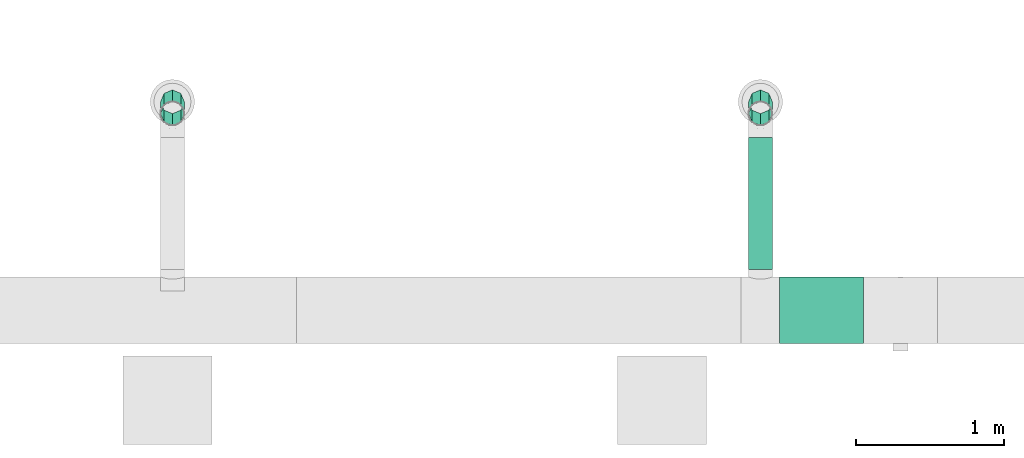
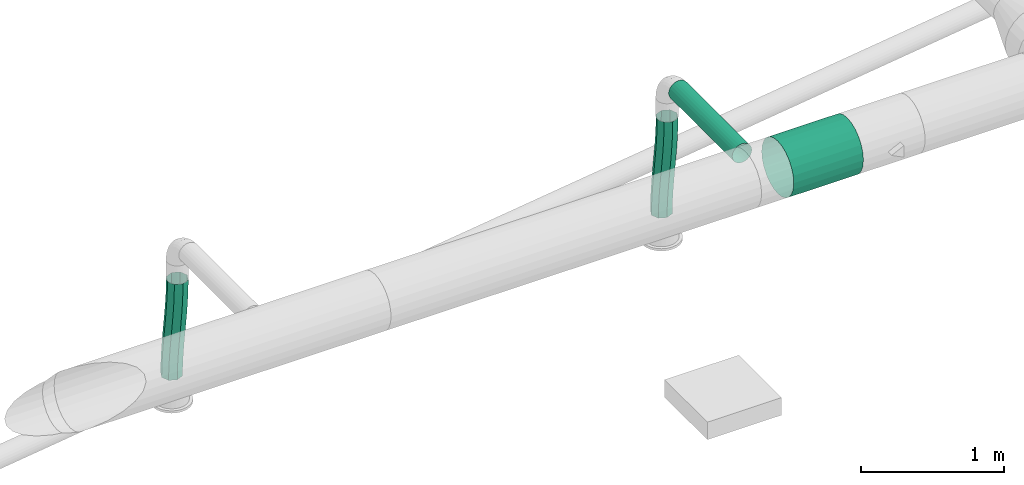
# One storey, part 312 of 374: 4 flow segments.
"""IFC2X3 building model written with IfcOpenShell, lengths in metres."""

from ifc_helpers import new_model, si_unit, direction, origin, place, context, subcontext, project, spatial, open_shell, surface_model, source, transform, mapped, element, save


model = new_model("IFC2X3")

# Units and contexts
model_context = context("Model", 3, precision=1e-05, world=origin(), true_north=direction((-0.4480736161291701, 0.8939966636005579)))
body_context = subcontext(model_context, "Body", "Model", "MODEL_VIEW")
ifc_project = project(units=[si_unit("LENGTHUNIT", "METRE"), si_unit("AREAUNIT", "SQUARE_METRE"), si_unit("VOLUMEUNIT", "CUBIC_METRE"), si_unit("PLANEANGLEUNIT", "RADIAN"), si_unit("THERMODYNAMICTEMPERATUREUNIT", "KELVIN"), si_unit("MASSUNIT", "GRAM", prefix="KILO"), si_unit("TIMEUNIT", "SECOND")], contexts=[model_context])

# Site, building, storey
site_placement = place(None, origin())
site = spatial("IfcSite", under=ifc_project, at=site_placement, Name="Site 1", CompositionType="ELEMENT")
building_placement = place(site_placement, origin())
building = spatial("IfcBuilding", under=site, at=building_placement, Name="Undefined", CompositionType="ELEMENT")
storey_placement = place(building_placement, origin())
storey = spatial("IfcBuildingStorey", under=building, at=storey_placement, Name="Rez de chauss\x8ee", CompositionType="ELEMENT", Elevation=0.0)

# Flow segments
shared_shape_1 = source(origin(), body_context, "Body", "SurfaceModel", [
    surface_model("IfcFaceBasedSurfaceModel", [(0.0, 0.05873678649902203, -2.77555756e-16), (0.0, 0.0, 0.0), (0.5642835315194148, -3.552713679e-15, 8.8817842e-16), (0.5642835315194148, 0.05873678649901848, 0.0), (0.0, -0.05673537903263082, -0.015202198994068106), (0.5642835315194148, -0.05673537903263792, -0.015202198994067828), (0.0, -0.10760292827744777, -0.044570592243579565), (0.5642835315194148, -0.10760292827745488, -0.04457059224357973), (0.0, -0.14913610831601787, -0.08610377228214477), (0.5642835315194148, -0.14913610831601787, -0.08610377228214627), (0.0, -0.1785045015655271, -0.13697132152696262), (0.5642835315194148, -0.17850450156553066, -0.13697132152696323), (0.0, -0.19370670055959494, -0.1937067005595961), (0.5642835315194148, -0.1937067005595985, -0.19370670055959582), (0.0, -0.19370670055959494, -0.252443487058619), (0.5642835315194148, -0.1937067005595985, -0.2524434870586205), (0.0, -0.1785045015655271, -0.30917886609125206), (0.5642835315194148, -0.1785045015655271, -0.309178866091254), (0.0, -0.14913610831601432, -0.36004641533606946), (0.5642835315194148, -0.14913610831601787, -0.36004641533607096), (0.0, -0.10760292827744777, -0.40157959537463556), (0.5642835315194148, -0.10760292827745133, -0.4015795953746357), (0.0, -0.05673537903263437, -0.43094798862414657), (0.5642835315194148, -0.05673537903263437, -0.43094798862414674), (0.0, 0.0, -0.4461501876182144), (0.5642835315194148, 0.0, -0.44615018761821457), (0.0, 0.058736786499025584, -0.4461501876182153), (0.5642835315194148, 0.05873678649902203, -0.44615018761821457), (0.0, 0.1154721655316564, -0.430947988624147), (0.5642835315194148, 0.1154721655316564, -0.43094798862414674), (0.0, 0.16633971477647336, -0.4015795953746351), (0.5642835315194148, 0.16633971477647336, -0.40157959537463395), (0.0, 0.20787289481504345, -0.3600464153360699), (0.5642835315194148, 0.20787289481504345, -0.3600464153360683), (0.0, 0.23724128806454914, -0.3091788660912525), (0.5642835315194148, 0.23724128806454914, -0.30917886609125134), (0.0, 0.25244348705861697, -0.25244348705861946), (0.5642835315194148, 0.25244348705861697, -0.2524434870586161), (0.0, 0.25244348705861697, -0.1937067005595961), (0.5642835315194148, 0.25244348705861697, -0.19370670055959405), (0.0, 0.2372412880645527, -0.13697132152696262), (0.5642835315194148, 0.2372412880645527, -0.13697132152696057), (0.0, 0.2078728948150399, -0.08610377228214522), (0.5642835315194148, 0.20787289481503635, -0.08610377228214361), (0.0, 0.16633971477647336, -0.044570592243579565), (0.5642835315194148, 0.1663397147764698, -0.044570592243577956), (0.0, 0.11547216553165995, -0.01520219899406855), (0.5642835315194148, 0.11547216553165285, -0.01520219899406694)], [open_shell([[[0, 1, 2, 3]], [[1, 4, 5, 2]], [[4, 6, 7, 5]], [[6, 8, 9, 7]], [[8, 10, 11, 9]], [[10, 12, 13, 11]], [[12, 14, 15, 13]], [[14, 16, 17, 15]], [[16, 18, 19, 17]], [[18, 20, 21, 19]], [[20, 22, 23, 21]], [[22, 24, 25, 23]], [[24, 26, 27, 25]], [[26, 28, 29, 27]], [[28, 30, 31, 29]], [[30, 32, 33, 31]], [[32, 34, 35, 33]], [[34, 36, 37, 35]], [[36, 38, 39, 37]], [[38, 40, 41, 39]], [[40, 42, 43, 41]], [[42, 44, 45, 43]], [[44, 46, 47, 45]], [[46, 0, 3, 47]]])]),
])
flow_segment_1_placement = place(storey_placement, origin())
element("IfcFlowSegment", 1, at=flow_segment_1_placement, inside=storey, Name="Tube", ObjectType="Tube", context=body_context, shape_type="MappedRepresentation", body=[
    mapped(shared_shape_1, transform((50.1249950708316, 20.585122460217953, 4.017333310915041), x_axis=(-1.0, 0.0, 0.0), y_axis=(7.266545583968e-12, -0.9914448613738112, 0.13052619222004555), z_axis=(0.0, 0.13052619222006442, 0.9914448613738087))),
])
shared_shape_2 = source(origin(), body_context, "Body", "SurfaceModel", [
    surface_model("IfcFaceBasedSurfaceModel", [(0.09425708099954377, 0.0, -7.105427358e-15), (0.05356602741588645, 0.045752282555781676, -7.105427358e-15), (0.0, 0.0, 0.0), (0.038940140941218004, -0.04725144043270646, -1.1507118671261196e-06), (-0.05541274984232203, -0.044041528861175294, 0.001035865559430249), (-0.01799366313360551, -0.09250640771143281, 0.0010617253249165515), (-0.11243305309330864, -0.08679099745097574, 0.002911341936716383), (-0.07622095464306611, -0.13616419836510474, 0.0029758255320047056), (-0.17075715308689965, -0.12862218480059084, 0.0054269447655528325), (-0.13541835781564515, -0.1786241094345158, 0.005528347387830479), (-0.23007333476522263, -0.16991458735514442, 0.008379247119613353), (-0.19526249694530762, -0.22028543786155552, 0.008506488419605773), (-0.2900642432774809, -0.21105506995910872, 0.011560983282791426), (-0.2554299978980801, -0.2615474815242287, 0.011697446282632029), (-0.3504083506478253, -0.25243870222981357, 0.014761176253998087), (-0.31559749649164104, -0.3028095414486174, 0.014888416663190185), (-0.4107804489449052, -0.2944689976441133, 0.017765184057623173), (-0.37544163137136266, -0.344470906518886, 0.01786658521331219), (-0.47085115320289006, -0.33755767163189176, 0.020354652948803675), (-0.4346390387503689, -0.3869308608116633, 0.020419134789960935), (-0.5302854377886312, -0.3821238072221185, 0.022307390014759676), (-0.49286635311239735, -0.4305886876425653, 0.0223332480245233), (-0.5887403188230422, -0.42859220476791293, 0.02339725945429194), (-0.5498002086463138, -0.47584367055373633, 0.02339610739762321), (-0.6458082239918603, -0.47734274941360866, 0.023394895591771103), (-0.6051172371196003, -0.5230950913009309, 0.023394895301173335), (0.025061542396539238, 0.07834277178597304, -0.043294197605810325), (-0.02777922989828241, 0.03321146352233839, -0.04329372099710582), (-0.08256193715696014, -0.010327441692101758, -0.04226904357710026), (-0.13908229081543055, -0.05270067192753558, -0.04040956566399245), (-0.19704466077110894, -0.09427143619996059, -0.03790925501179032), (-0.25614216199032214, -0.13541102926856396, -0.034967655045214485), (-0.316059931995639, -0.17650116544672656, -0.03178973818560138), (-0.37647719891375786, -0.21793515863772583, -0.02858572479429), (-0.4370679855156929, -0.2601182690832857, -0.025571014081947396), (-0.4975004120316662, -0.3034673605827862, -0.022966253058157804), (-0.5574346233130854, -0.34840971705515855, -0.020997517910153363), (-0.6165195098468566, -0.39538070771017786, -0.019896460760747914), (-0.6743126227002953, -0.44475218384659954, -0.019899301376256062), (0.025441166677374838, 0.0786804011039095, -0.1045214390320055), (-0.028124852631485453, 0.03292812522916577, -0.10452143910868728), (-0.08353759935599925, -0.011113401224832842, -0.10348557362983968), (-0.14055790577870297, -0.05386287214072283, -0.1016100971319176), (-0.19888201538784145, -0.09569406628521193, -0.09909449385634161), (-0.25819821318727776, -0.13698647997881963, -0.09614219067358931), (-0.31818914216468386, -0.1781269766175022, -0.0929604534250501), (-0.3785332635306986, -0.21951061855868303, -0.08976025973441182), (-0.43890535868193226, -0.2615409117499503, -0.08675625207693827), (-0.4989760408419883, -0.30462956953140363, -0.08416678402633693), (-0.5584102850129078, -0.34919567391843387, -0.08221404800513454), (-0.616865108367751, -0.3956640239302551, -0.08112417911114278), (-0.6739329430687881, -0.4444145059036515, -0.08112654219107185), (0.05448252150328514, 0.04656739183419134, -0.14781563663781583), (-0.0008344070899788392, -0.0006840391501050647, -0.14781678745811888), (-0.05776820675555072, -0.045939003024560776, -0.14675391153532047), (-0.11599550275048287, -0.08959679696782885, -0.14483981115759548), (-0.1751929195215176, -0.13205671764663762, -0.14228728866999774), (-0.2350370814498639, -0.17371806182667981, -0.13930914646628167), (-0.2952046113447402, -0.21498012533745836, -0.13611818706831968), (-0.35537212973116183, -0.2562421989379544, -0.13292721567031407), (-0.41521626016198, -0.29790356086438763, -0.12994904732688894), (-0.4744136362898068, -0.3403634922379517, -0.1273964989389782), (-0.5326408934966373, -0.3840212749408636, -0.1254823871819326), (-0.5895746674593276, -0.4292761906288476, -0.12441952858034), (-0.6448915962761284, -0.4765275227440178, -0.12442073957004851), (0.09517357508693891, 0.0008151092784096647, -0.14781563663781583), (0.038105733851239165, -0.04793547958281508, -0.147817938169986), (-0.02034912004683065, -0.0944038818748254, -0.14672805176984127), (-0.07978340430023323, -0.1389699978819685, -0.14477532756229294), (-0.13985412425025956, -0.18205864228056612, -0.1421858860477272), (-0.20022624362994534, -0.22408891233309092, -0.13918190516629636), (-0.26057036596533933, -0.2654725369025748, -0.1359817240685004), (-0.32056127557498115, -0.3066130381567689, -0.13279997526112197), (-0.3798774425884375, -0.3479054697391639, -0.12984764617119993), (-0.43820152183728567, -0.38973668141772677, -0.12733201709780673), (-0.49522180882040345, -0.43248615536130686, -0.12545652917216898), (-0.5506345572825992, -0.47652765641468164, -0.12442068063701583), (-0.6042006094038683, -0.5222798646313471, -0.12442073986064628), (0.12367806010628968, -0.03177537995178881, -0.1045214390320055), (0.06588496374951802, -0.08114694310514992, -0.10452421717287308), (0.006800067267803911, -0.12811796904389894, -0.10342314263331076), (-0.053134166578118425, -0.173060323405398, -0.10145441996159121), (-0.11356661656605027, -0.21640939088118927, -0.09884968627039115), (-0.1741574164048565, -0.2585924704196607, -0.09583500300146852), (-0.2345746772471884, -0.30002644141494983, -0.09263100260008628), (-0.29449242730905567, -0.34111658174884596, -0.08945307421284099), (-0.3535899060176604, -0.38225619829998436, -0.08651144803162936), (-0.4115522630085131, -0.42382699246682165, -0.08401111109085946), (-0.46807262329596, -0.4662002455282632, -0.08215162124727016), (-0.5228553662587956, -0.5097391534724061, -0.08112696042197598), (-0.575696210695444, -0.5548704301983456, -0.08112654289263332), (0.12329843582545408, -0.03211300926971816, -0.043294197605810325), (0.06623058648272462, -0.0808636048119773, -0.04329649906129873), (0.00777572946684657, -0.12733200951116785, -0.04220661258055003), (-0.051658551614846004, -0.17189812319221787, -0.04025388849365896), (-0.11172926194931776, -0.21498676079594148, -0.03766444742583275), (-0.17210136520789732, -0.2570170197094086, -0.034660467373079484), (-0.2324454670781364, -0.29840063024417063, -0.03146028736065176), (-0.2924363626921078, -0.33954112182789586, -0.02827853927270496), (-0.35175253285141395, -0.38083355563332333, -0.02532621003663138), (-0.41007663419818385, -0.42266478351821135, -0.02281058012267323), (-0.46709696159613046, -0.46541428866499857, -0.020935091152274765), (-0.5225097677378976, -0.5094558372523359, -0.019899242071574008), (-0.5760758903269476, -0.5552081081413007, -0.01989930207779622)], [open_shell([[[0, 1, 2]], [[2, 3, 0]], [[3, 2, 4]], [[4, 5, 3]], [[5, 4, 6]], [[6, 7, 5]], [[7, 6, 8]], [[8, 9, 7]], [[9, 8, 10]], [[10, 11, 9]], [[11, 10, 12]], [[12, 13, 11]], [[13, 12, 14]], [[14, 15, 13]], [[15, 14, 16]], [[16, 17, 15]], [[17, 16, 18]], [[18, 19, 17]], [[19, 18, 20]], [[20, 21, 19]], [[21, 20, 22]], [[22, 23, 21]], [[23, 22, 24]], [[24, 25, 23]], [[1, 26, 27]], [[27, 2, 1]], [[2, 27, 28]], [[28, 4, 2]], [[4, 28, 29]], [[29, 6, 4]], [[6, 29, 30]], [[30, 8, 6]], [[8, 30, 31]], [[31, 10, 8]], [[10, 31, 32]], [[32, 12, 10]], [[12, 32, 33]], [[33, 14, 12]], [[14, 33, 34]], [[34, 16, 14]], [[16, 34, 35]], [[35, 18, 16]], [[18, 35, 36]], [[36, 20, 18]], [[20, 36, 37]], [[37, 22, 20]], [[22, 37, 38]], [[38, 24, 22]], [[26, 39, 40]], [[40, 27, 26]], [[27, 40, 41]], [[41, 28, 27]], [[28, 41, 42]], [[42, 29, 28]], [[29, 42, 43]], [[43, 30, 29]], [[30, 43, 44]], [[44, 31, 30]], [[31, 44, 45]], [[45, 32, 31]], [[32, 45, 46]], [[46, 33, 32]], [[33, 46, 47]], [[47, 34, 33]], [[34, 47, 48]], [[48, 35, 34]], [[35, 48, 49]], [[49, 36, 35]], [[36, 49, 50]], [[50, 37, 36]], [[37, 50, 51]], [[51, 38, 37]], [[39, 52, 53]], [[53, 40, 39]], [[40, 53, 54]], [[54, 41, 40]], [[41, 54, 55]], [[55, 42, 41]], [[42, 55, 56]], [[56, 43, 42]], [[43, 56, 57]], [[57, 44, 43]], [[44, 57, 58]], [[58, 45, 44]], [[45, 58, 59]], [[59, 46, 45]], [[46, 59, 60]], [[60, 47, 46]], [[47, 60, 61]], [[61, 48, 47]], [[48, 61, 62]], [[62, 49, 48]], [[49, 62, 63]], [[63, 50, 49]], [[50, 63, 64]], [[64, 51, 50]], [[52, 65, 66]], [[66, 53, 52]], [[53, 66, 67]], [[67, 54, 53]], [[54, 67, 68]], [[68, 55, 54]], [[55, 68, 69]], [[69, 56, 55]], [[56, 69, 70]], [[70, 57, 56]], [[57, 70, 71]], [[71, 58, 57]], [[58, 71, 72]], [[72, 59, 58]], [[59, 72, 73]], [[73, 60, 59]], [[60, 73, 74]], [[74, 61, 60]], [[61, 74, 75]], [[75, 62, 61]], [[62, 75, 76]], [[76, 63, 62]], [[63, 76, 77]], [[77, 64, 63]], [[65, 78, 79]], [[79, 66, 65]], [[66, 79, 80]], [[80, 67, 66]], [[67, 80, 81]], [[81, 68, 67]], [[68, 81, 82]], [[82, 69, 68]], [[69, 82, 83]], [[83, 70, 69]], [[70, 83, 84]], [[84, 71, 70]], [[71, 84, 85]], [[85, 72, 71]], [[72, 85, 86]], [[86, 73, 72]], [[73, 86, 87]], [[87, 74, 73]], [[74, 87, 88]], [[88, 75, 74]], [[75, 88, 89]], [[89, 76, 75]], [[76, 89, 90]], [[90, 77, 76]], [[78, 91, 92]], [[92, 79, 78]], [[79, 92, 93]], [[93, 80, 79]], [[80, 93, 94]], [[94, 81, 80]], [[81, 94, 95]], [[95, 82, 81]], [[82, 95, 96]], [[96, 83, 82]], [[83, 96, 97]], [[97, 84, 83]], [[84, 97, 98]], [[98, 85, 84]], [[85, 98, 99]], [[99, 86, 85]], [[86, 99, 100]], [[100, 87, 86]], [[87, 100, 101]], [[101, 88, 87]], [[88, 101, 102]], [[102, 89, 88]], [[89, 102, 103]], [[103, 90, 89]], [[91, 0, 3]], [[3, 92, 91]], [[92, 3, 5]], [[5, 93, 92]], [[93, 5, 7]], [[7, 94, 93]], [[94, 7, 9]], [[9, 95, 94]], [[95, 9, 11]], [[11, 96, 95]], [[96, 11, 13]], [[13, 97, 96]], [[97, 13, 15]], [[15, 98, 97]], [[98, 15, 17]], [[17, 99, 98]], [[99, 17, 19]], [[19, 100, 99]], [[100, 19, 21]], [[21, 101, 100]], [[101, 21, 23]], [[23, 102, 101]], [[102, 23, 25]], [[25, 103, 102]]])]),
])
flow_segment_2_placement = place(storey_placement, origin())
element("IfcFlowSegment", 2, at=flow_segment_2_placement, inside=storey, Name="Tube flexible", ObjectType="Tube flexible", context=body_context, shape_type="MappedRepresentation", body=[
    mapped(shared_shape_2, transform((49.374143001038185, 21.91141704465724, 3.4095708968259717), x_axis=(-0.24859099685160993, -0.6163532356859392, 0.7472022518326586), y_axis=(0.2910461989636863, 0.6882384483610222, 0.6645449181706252), z_axis=(-0.9238477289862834, 0.38267025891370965, 0.008297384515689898))),
])
shared_shape_3 = source(origin(), body_context, "Body", "SurfaceModel", [
    surface_model("IfcFaceBasedSurfaceModel", [(0.0942570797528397, 0.0, 0.0), (0.053566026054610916, 0.04575228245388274, 0.0), (0.0, 0.0, 0.0), (0.038940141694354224, -0.04725143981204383, -1.1507479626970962e-06), (-0.05541274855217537, -0.04404152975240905, 0.0010358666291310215), (-0.01799366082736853, -0.09250640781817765, 0.0010617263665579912), (-0.11243305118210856, -0.08679099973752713, 0.0029113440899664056), (-0.07622095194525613, -0.1361642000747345, 0.002975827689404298), (-0.17075715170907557, -0.1286221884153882, 0.00542694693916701), (-0.1354183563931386, -0.17862411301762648, 0.005528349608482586), (-0.2300733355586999, -0.16991459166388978, 0.008379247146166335), (-0.19526249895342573, -0.22028544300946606, 0.008506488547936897), (-0.29006424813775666, -0.21105507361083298, 0.01156097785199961), (-0.25543000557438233, -0.26154748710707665, 0.011697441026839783), (-0.35040836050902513, -0.25243870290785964, 0.014761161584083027), (-0.31559751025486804, -0.30280954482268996, 0.014888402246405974), (-0.41078046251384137, -0.2944689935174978, 0.017765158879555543), (-0.375441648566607, -0.34447090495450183, 0.017866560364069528), (-0.4708511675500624, -0.3375576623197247, 0.02035461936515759), (-0.43463905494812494, -0.38693085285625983, 0.020419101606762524), (-0.5302854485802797, -0.3821237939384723, 0.022307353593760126), (-0.4928663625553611, -0.43058867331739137, 0.02233321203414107), (-0.5887403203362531, -0.428592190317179, 0.0233972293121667), (-0.5498002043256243, -0.47584365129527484, 0.02339607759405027), (-0.6458082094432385, -0.47734273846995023, 0.02339488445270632), (-0.6051172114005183, -0.5230950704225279, 0.02339488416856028), (0.02506154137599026, 0.07834277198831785, -0.04329419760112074), (-0.02777923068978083, 0.03321146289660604, -0.04329372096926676), (-0.0825619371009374, -0.010327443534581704, -0.04226904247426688), (-0.13908228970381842, -0.052700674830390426, -0.04040956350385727), (-0.197044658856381, -0.0942714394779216, -0.03790925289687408), (-0.256142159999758, -0.13541103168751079, -0.0349676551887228), (-0.31605993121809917, -0.17650116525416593, -0.03178974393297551), (-0.3764772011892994, -0.21793515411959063, -0.02858573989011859), (-0.4370679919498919, -0.26011826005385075, -0.025571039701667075), (-0.4975004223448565, -0.3034673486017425, -0.022966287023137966), (-0.5574346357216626, -0.3484097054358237, -0.020997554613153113), (-0.6165195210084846, -0.3953807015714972, -0.01989649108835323), (-0.6743126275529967, -0.4447521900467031, -0.019899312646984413), (0.025441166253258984, 0.07868040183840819, -0.10452143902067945), (-0.0281248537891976, 0.03292812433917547, -0.10452143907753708), (-0.08353760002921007, -0.011113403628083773, -0.10348557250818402), (-0.14055790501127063, -0.05386287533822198, -0.1016100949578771), (-0.19888201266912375, -0.0956940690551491, -0.09909449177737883), (-0.25819820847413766, -0.13698648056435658, -0.09614219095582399), (-0.3181891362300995, -0.17812697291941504, -0.09296045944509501), (-0.3785332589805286, -0.219510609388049, -0.08976027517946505), (-0.43890535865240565, -0.2615408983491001, -0.08675627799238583), (-0.49897604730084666, -0.3046295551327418, -0.08416681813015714), (-0.5584102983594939, -0.3491956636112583, -0.0822140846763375), (-0.6168651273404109, -0.3956640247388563, -0.08112420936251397), (-0.6739329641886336, -0.44441452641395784, -0.08112655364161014), (0.05448252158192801, 0.046567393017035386, -0.1478156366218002), (-0.000834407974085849, -0.0006840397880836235, -0.1478167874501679), (-0.057768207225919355, -0.04593900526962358, -0.14675391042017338), (-0.11599550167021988, -0.08959679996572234, -0.14483980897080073), (-0.17519291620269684, -0.13205672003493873, -0.14228728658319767), (-0.23503707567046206, -0.17371806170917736, -0.1393091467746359), (-0.2952046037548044, -0.21498012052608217, -0.13611819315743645), (-0.3553721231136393, -0.25624218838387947, -0.13292723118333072), (-0.4152162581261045, -0.2979035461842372, -0.12994907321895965), (-0.4744136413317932, -0.3403634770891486, -0.12739653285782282), (-0.5326409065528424, -0.3840212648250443, -0.12548242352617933), (-0.5895746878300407, -0.4292761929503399, -0.12441955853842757), (-0.6448916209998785, -0.47652754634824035, -0.12442075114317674), (0.0951735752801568, 0.0008151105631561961, -0.1478156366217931), (0.03810573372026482, -0.04793547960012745, -0.1478179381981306), (-0.02034911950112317, -0.09440388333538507, -0.14672805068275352), (-0.07978340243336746, -0.13897000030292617, -0.14477532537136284), (-0.1398541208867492, -0.18205864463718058, -0.1421858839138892), (-0.20022623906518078, -0.2240889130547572, -0.13918190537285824), (-0.2605703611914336, -0.2654725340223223, -0.13598172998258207), (-0.32056127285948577, -0.30661303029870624, -0.13279999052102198), (-0.3798774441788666, -0.3479054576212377, -0.12984767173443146), (-0.4382015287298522, -0.3897366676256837, -0.1273320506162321), (-0.49522182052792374, -0.4324861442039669, -0.1254565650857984), (-0.5506345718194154, -0.4765276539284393, -0.1244207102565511), (-0.6042006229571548, -0.522279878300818, -0.1244207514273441), (0.12367805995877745, -0.031775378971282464, -0.10452143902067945), (0.0658849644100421, -0.08114694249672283, -0.10452421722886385), (0.006800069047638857, -0.12811796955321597, -0.10342314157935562), (-0.053134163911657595, -0.17306032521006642, -0.10145441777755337), (-0.11356661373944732, -0.21640939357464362, -0.09884968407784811), (-0.17415741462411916, -0.2585924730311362, -0.0958350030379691), (-0.23457467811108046, -0.300026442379, -0.09263100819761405), (-0.29449243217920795, -0.3411165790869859, -0.08945308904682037), (-0.35358991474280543, -0.3822561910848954, -0.08651147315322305), (-0.411552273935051, -0.42382698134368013, -0.08401114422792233), (-0.46807263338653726, -0.46620023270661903, -0.08215165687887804), (-0.5228553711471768, -0.5097391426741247, -0.08112698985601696), (-0.5756962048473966, -0.5548704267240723, -0.08112655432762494), (0.12329843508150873, -0.0321130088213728, -0.04329419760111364), (0.06623058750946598, -0.08086360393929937, -0.04329649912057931), (0.007775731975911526, -0.1273320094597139, -0.04220661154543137), (-0.051658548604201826, -0.17189812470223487, -0.04025388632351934), (-0.11172925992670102, -0.21498676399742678, -0.03766444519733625), (-0.17210136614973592, -0.2570170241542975, -0.03466046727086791), (-0.2324454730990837, -0.2984006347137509, -0.031460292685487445), (-0.29243637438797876, -0.33954112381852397, -0.0282785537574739), (-0.3517525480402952, -0.38083355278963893, -0.025326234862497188), (-0.4100766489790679, -0.4226647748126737, -0.02281061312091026), (-0.46709697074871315, -0.46541427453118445, -0.02093512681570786), (-0.5225097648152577, -0.5094558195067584, -0.019899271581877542), (-0.5760758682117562, -0.5552080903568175, -0.019899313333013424)], [open_shell([[[0, 1, 2]], [[2, 3, 0]], [[3, 2, 4]], [[4, 5, 3]], [[5, 4, 6]], [[6, 7, 5]], [[7, 6, 8]], [[8, 9, 7]], [[9, 8, 10]], [[10, 11, 9]], [[11, 10, 12]], [[12, 13, 11]], [[13, 12, 14]], [[14, 15, 13]], [[15, 14, 16]], [[16, 17, 15]], [[17, 16, 18]], [[18, 19, 17]], [[19, 18, 20]], [[20, 21, 19]], [[21, 20, 22]], [[22, 23, 21]], [[23, 22, 24]], [[24, 25, 23]], [[1, 26, 27]], [[27, 2, 1]], [[2, 27, 28]], [[28, 4, 2]], [[4, 28, 29]], [[29, 6, 4]], [[6, 29, 30]], [[30, 8, 6]], [[8, 30, 31]], [[31, 10, 8]], [[10, 31, 32]], [[32, 12, 10]], [[12, 32, 33]], [[33, 14, 12]], [[14, 33, 34]], [[34, 16, 14]], [[16, 34, 35]], [[35, 18, 16]], [[18, 35, 36]], [[36, 20, 18]], [[20, 36, 37]], [[37, 22, 20]], [[22, 37, 38]], [[38, 24, 22]], [[26, 39, 40]], [[40, 27, 26]], [[27, 40, 41]], [[41, 28, 27]], [[28, 41, 42]], [[42, 29, 28]], [[29, 42, 43]], [[43, 30, 29]], [[30, 43, 44]], [[44, 31, 30]], [[31, 44, 45]], [[45, 32, 31]], [[32, 45, 46]], [[46, 33, 32]], [[33, 46, 47]], [[47, 34, 33]], [[34, 47, 48]], [[48, 35, 34]], [[35, 48, 49]], [[49, 36, 35]], [[36, 49, 50]], [[50, 37, 36]], [[37, 50, 51]], [[51, 38, 37]], [[39, 52, 53]], [[53, 40, 39]], [[40, 53, 54]], [[54, 41, 40]], [[41, 54, 55]], [[55, 42, 41]], [[42, 55, 56]], [[56, 43, 42]], [[43, 56, 57]], [[57, 44, 43]], [[44, 57, 58]], [[58, 45, 44]], [[45, 58, 59]], [[59, 46, 45]], [[46, 59, 60]], [[60, 47, 46]], [[47, 60, 61]], [[61, 48, 47]], [[48, 61, 62]], [[62, 49, 48]], [[49, 62, 63]], [[63, 50, 49]], [[50, 63, 64]], [[64, 51, 50]], [[52, 65, 66]], [[66, 53, 52]], [[53, 66, 67]], [[67, 54, 53]], [[54, 67, 68]], [[68, 55, 54]], [[55, 68, 69]], [[69, 56, 55]], [[56, 69, 70]], [[70, 57, 56]], [[57, 70, 71]], [[71, 58, 57]], [[58, 71, 72]], [[72, 59, 58]], [[59, 72, 73]], [[73, 60, 59]], [[60, 73, 74]], [[74, 61, 60]], [[61, 74, 75]], [[75, 62, 61]], [[62, 75, 76]], [[76, 63, 62]], [[63, 76, 77]], [[77, 64, 63]], [[65, 78, 79]], [[79, 66, 65]], [[66, 79, 80]], [[80, 67, 66]], [[67, 80, 81]], [[81, 68, 67]], [[68, 81, 82]], [[82, 69, 68]], [[69, 82, 83]], [[83, 70, 69]], [[70, 83, 84]], [[84, 71, 70]], [[71, 84, 85]], [[85, 72, 71]], [[72, 85, 86]], [[86, 73, 72]], [[73, 86, 87]], [[87, 74, 73]], [[74, 87, 88]], [[88, 75, 74]], [[75, 88, 89]], [[89, 76, 75]], [[76, 89, 90]], [[90, 77, 76]], [[78, 91, 92]], [[92, 79, 78]], [[79, 92, 93]], [[93, 80, 79]], [[80, 93, 94]], [[94, 81, 80]], [[81, 94, 95]], [[95, 82, 81]], [[82, 95, 96]], [[96, 83, 82]], [[83, 96, 97]], [[97, 84, 83]], [[84, 97, 98]], [[98, 85, 84]], [[85, 98, 99]], [[99, 86, 85]], [[86, 99, 100]], [[100, 87, 86]], [[87, 100, 101]], [[101, 88, 87]], [[88, 101, 102]], [[102, 89, 88]], [[89, 102, 103]], [[103, 90, 89]], [[91, 0, 3]], [[3, 92, 91]], [[92, 3, 5]], [[5, 93, 92]], [[93, 5, 7]], [[7, 94, 93]], [[94, 7, 9]], [[9, 95, 94]], [[95, 9, 11]], [[11, 96, 95]], [[96, 11, 13]], [[13, 97, 96]], [[97, 13, 15]], [[15, 98, 97]], [[98, 15, 17]], [[17, 99, 98]], [[99, 17, 19]], [[19, 100, 99]], [[100, 19, 21]], [[21, 101, 100]], [[101, 21, 23]], [[23, 102, 101]], [[102, 23, 25]], [[25, 103, 102]]])]),
])
flow_segment_3_placement = place(storey_placement, origin())
element("IfcFlowSegment", 3, at=flow_segment_3_placement, inside=storey, Name="Tube flexible", ObjectType="Tube flexible", context=body_context, shape_type="MappedRepresentation", body=[
    mapped(shared_shape_3, transform((45.40899703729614, 21.911417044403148, 3.409570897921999), x_axis=(-0.2485909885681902, -0.6163532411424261, 0.7472022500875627), y_axis=(0.29104620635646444, 0.6882384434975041, 0.6645449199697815), z_axis=(-0.9238477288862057, 0.38267025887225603, 0.008297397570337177))),
])
shared_shape_4 = source(origin(), body_context, "Body", "SurfaceModel", [
    surface_model("IfcFaceBasedSurfaceModel", [(0.0, 0.020884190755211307, 0.0), (0.0, 0.0, 0.0), (0.8914332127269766, 0.0, -3.552713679e-15), (0.8914332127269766, 0.0208841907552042, -1.776356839e-15), (0.0, -0.020172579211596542, -0.005405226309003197), (0.8914332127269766, -0.020172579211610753, -0.005405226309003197), (0.0, -0.03825881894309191, -0.015847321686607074), (0.8914332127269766, -0.03825881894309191, -0.015847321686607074), (0.0, -0.05302617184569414, -0.0306146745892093), (0.8914332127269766, -0.05302617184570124, -0.0306146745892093), (0.0, -0.06346826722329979, -0.04870091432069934), (0.8914332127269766, -0.06346826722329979, -0.048700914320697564), (0.0, -0.06887349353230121, -0.06887349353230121), (0.8914332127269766, -0.06887349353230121, -0.06887349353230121), (0.0, -0.06887349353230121, -0.08975768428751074), (0.8914332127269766, -0.06887349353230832, -0.08975768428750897), (0.0, -0.06346826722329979, -0.10993026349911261), (0.8914332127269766, -0.0634682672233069, -0.10993026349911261), (0.0, -0.05302617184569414, -0.12801650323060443), (0.8914332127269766, -0.05302617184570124, -0.12801650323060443), (0.0, -0.038258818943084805, -0.14278385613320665), (0.8914332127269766, -0.038258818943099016, -0.14278385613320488), (0.0, -0.020172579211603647, -0.15322595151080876), (0.8914332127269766, -0.020172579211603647, -0.15322595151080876), (0.0, 7.105427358e-15, -0.15863117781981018), (0.8914332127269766, -7.105427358e-15, -0.15863117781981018), (0.0, 0.020884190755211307, -0.15863117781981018), (0.8914332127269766, 0.020884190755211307, -0.15863117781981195), (0.0, 0.04105676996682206, -0.15322595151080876), (0.8914332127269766, 0.04105676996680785, -0.15322595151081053), (0.0, 0.05914300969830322, -0.1427838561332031), (0.8914332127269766, 0.05914300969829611, -0.14278385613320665), (0.0, 0.07391036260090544, -0.12801650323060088), (0.8914332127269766, 0.07391036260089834, -0.1280165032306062), (0.0, 0.0843524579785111, -0.10993026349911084), (0.8914332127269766, 0.08435245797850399, -0.10993026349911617), (0.0, 0.08975768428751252, -0.08975768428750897), (0.8914332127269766, 0.08975768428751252, -0.0897576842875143), (0.0, 0.08975768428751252, -0.06887349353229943), (0.8914332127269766, 0.08975768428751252, -0.06887349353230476), (0.0, 0.0843524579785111, -0.048700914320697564), (0.8914332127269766, 0.08435245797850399, -0.048700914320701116), (0.0, 0.07391036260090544, -0.030614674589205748), (0.8914332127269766, 0.07391036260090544, -0.030614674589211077), (0.0, 0.05914300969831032, -0.015847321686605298), (0.8914332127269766, 0.05914300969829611, -0.01584732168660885), (0.0, 0.04105676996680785, -0.005405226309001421), (0.8914332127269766, 0.041056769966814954, -0.0054052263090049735)], [open_shell([[[0, 1, 2, 3]], [[1, 4, 5, 2]], [[4, 6, 7, 5]], [[6, 8, 9, 7]], [[8, 10, 11, 9]], [[10, 12, 13, 11]], [[12, 14, 15, 13]], [[14, 16, 17, 15]], [[16, 18, 19, 17]], [[18, 20, 21, 19]], [[20, 22, 23, 21]], [[22, 24, 25, 23]], [[24, 26, 27, 25]], [[26, 28, 29, 27]], [[28, 30, 31, 29]], [[30, 32, 33, 31]], [[32, 34, 35, 33]], [[34, 36, 37, 35]], [[36, 38, 39, 37]], [[38, 40, 41, 39]], [[40, 42, 43, 41]], [[42, 44, 45, 43]], [[44, 46, 47, 45]], [[46, 0, 3, 47]]])]),
])
flow_segment_4_placement = place(storey_placement, origin())
element("IfcFlowSegment", 4, at=flow_segment_4_placement, inside=storey, Name="Tube", ObjectType="Tube", context=body_context, shape_type="MappedRepresentation", body=[
    mapped(shared_shape_4, transform((49.410006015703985, 20.801888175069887, 3.7227259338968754), x_axis=(0.0, 1.0, 0.0), y_axis=(0.9914448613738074, 0.0, -0.13052619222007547), z_axis=(-0.13052619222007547, 0.0, -0.9914448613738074))),
])

save(model, "model.ifc")
